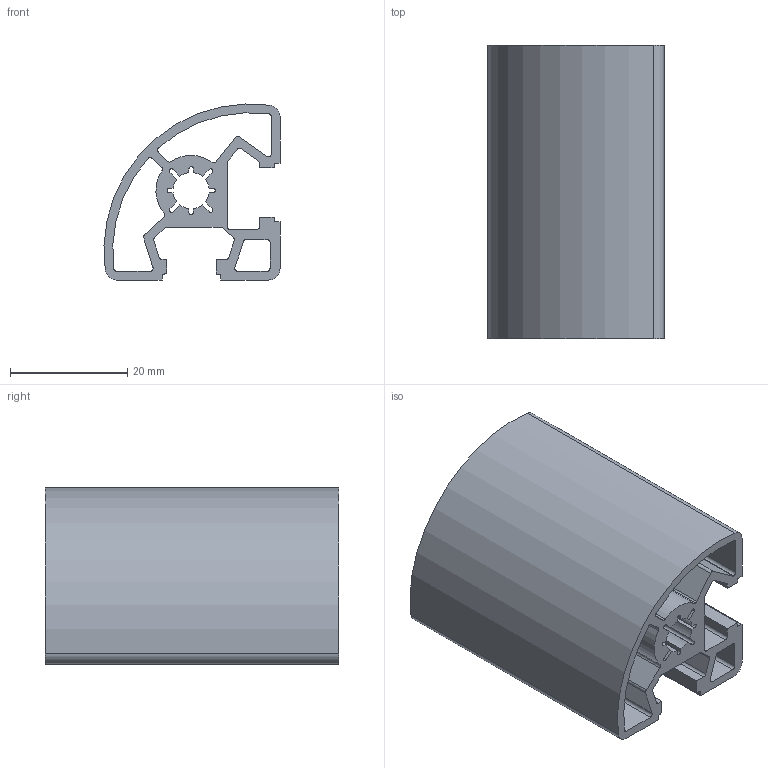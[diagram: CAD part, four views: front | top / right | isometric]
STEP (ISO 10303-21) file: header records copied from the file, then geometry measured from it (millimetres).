
FILE_DESCRIPTION (( 'STEP AP203' ), '1' );
FILE_NAME ('30X0 90° RADÜS.STEP', '2018-04-06T08:45:02', ( '' ), ( '' ), 'SwSTEP 2.0', 'SolidWorks 2014', '' );
FILE_SCHEMA (( 'CONFIG_CONTROL_DESIGN' ));
Length unit declared in the file: millimetre
Products named in the file (1): 30X0 90° RADÜS
Bounding box: 29.98 x 50 x 29.98 mm (x, y, z)
Volume: 14291.1 mm3; surface area: 16568 mm2
Topology: 1 solids, 1 shells, 117 faces, 345 edges, 230 vertices
Faces by surface type: plane 59, cylinder 58
Entity records: 4028 total; most frequent: DIRECTION 697, CARTESIAN_POINT 693, ORIENTED_EDGE 690, EDGE_CURVE 345, AXIS2_PLACEMENT_3D 234, VERTEX_POINT 230, VECTOR 229, LINE 229
